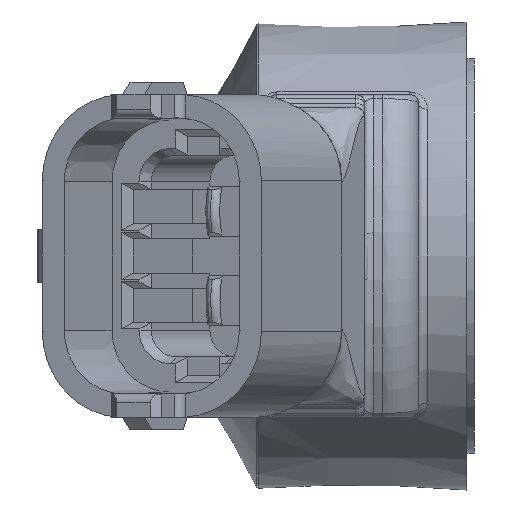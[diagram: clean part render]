
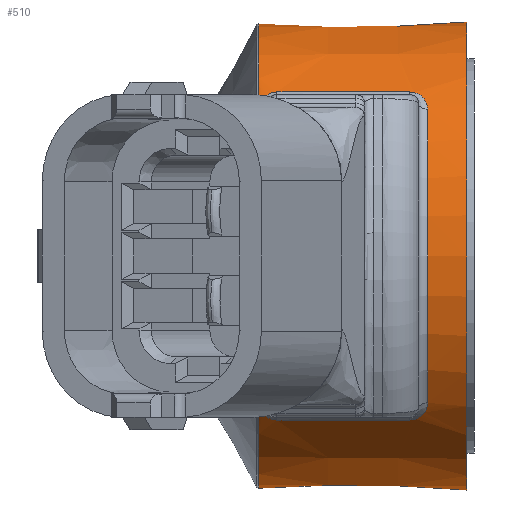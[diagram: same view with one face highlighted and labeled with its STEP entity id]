
A CAD part, left-side view. The second image highlights one B-rep face of the part: STEP entity #510.
In plain terms, the highlighted conical face has half-angle 0.5 degrees and reference radius 13.05 mm.
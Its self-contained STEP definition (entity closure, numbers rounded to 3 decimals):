
#217=CONICAL_SURFACE('',#5031,13.05,0.5);
#230=B_SPLINE_CURVE_WITH_KNOTS('',3,(#6878,#6879,#6880,#6881,#6882,#6883,
#6884,#6885,#6886,#6887),.UNSPECIFIED.,.F.,.F.,(4,3,3,4),(0.,0.135,
0.676,1.),.UNSPECIFIED.);
#231=B_SPLINE_CURVE_WITH_KNOTS('',3,(#6890,#6891,#6892,#6893,#6894,#6895,
#6896,#6897,#6898,#6899),.UNSPECIFIED.,.F.,.F.,(4,2,2,2,4),(0.,0.25,0.5,
0.75,1.),.UNSPECIFIED.);
#232=B_SPLINE_CURVE_WITH_KNOTS('',3,(#6903,#6904,#6905,#6906,#6907,#6908,
#6909,#6910,#6911,#6912),.UNSPECIFIED.,.F.,.F.,(4,2,2,2,4),(0.,0.5,
0.625,0.75,1.),.UNSPECIFIED.);
#233=B_SPLINE_CURVE_WITH_KNOTS('',3,(#6914,#6915,#6916,#6917,#6918,#6919,
#6920,#6921,#6922,#6923),.UNSPECIFIED.,.F.,.F.,(4,3,3,4),(0.,0.068,
0.609,1.),.UNSPECIFIED.);
#234=B_SPLINE_CURVE_WITH_KNOTS('',3,(#6925,#6926,#6927,#6928,#6929,#6930,
#6931,#6932,#6933,#6934),.UNSPECIFIED.,.F.,.F.,(4,2,2,2,4),(0.,0.25,0.5,
0.75,1.),.UNSPECIFIED.);
#235=B_SPLINE_CURVE_WITH_KNOTS('',3,(#6938,#6939,#6940,#6941,#6942,#6943,
#6944,#6945,#6946,#6947,#6948,#6949),.UNSPECIFIED.,.F.,.F.,(4,2,2,2,2,4),
(0.,0.25,0.5,0.625,0.75,
1.),.UNSPECIFIED.);
#301=FACE_BOUND('',#1265,.T.);
#302=FACE_BOUND('',#1266,.T.);
#343=CIRCLE('',#5027,12.949);
#344=CIRCLE('',#5028,13.031);
#345=CIRCLE('',#5029,12.949);
#346=CIRCLE('',#5030,13.05);
#510=ADVANCED_FACE('',(#301,#302,#973),#217,.T.);
#973=FACE_OUTER_BOUND('',#1267,.T.);
#1265=EDGE_LOOP('',(#1625));
#1266=EDGE_LOOP('',(#1626,#1627,#1628,#1629,#1630,#1631,#1632,#1633));
#1267=EDGE_LOOP('',(#1634));
#1625=ORIENTED_EDGE('',*,*,#3468,.T.);
#1626=ORIENTED_EDGE('',*,*,#3469,.T.);
#1627=ORIENTED_EDGE('',*,*,#3470,.T.);
#1628=ORIENTED_EDGE('',*,*,#3471,.T.);
#1629=ORIENTED_EDGE('',*,*,#3472,.T.);
#1630=ORIENTED_EDGE('',*,*,#3473,.T.);
#1631=ORIENTED_EDGE('',*,*,#3474,.T.);
#1632=ORIENTED_EDGE('',*,*,#3475,.T.);
#1633=ORIENTED_EDGE('',*,*,#3476,.T.);
#1634=ORIENTED_EDGE('',*,*,#3477,.F.);
#3031=VERTEX_POINT('',#6877);
#3032=VERTEX_POINT('',#6888);
#3033=VERTEX_POINT('',#6889);
#3034=VERTEX_POINT('',#6900);
#3035=VERTEX_POINT('',#6902);
#3036=VERTEX_POINT('',#6913);
#3037=VERTEX_POINT('',#6924);
#3038=VERTEX_POINT('',#6935);
#3039=VERTEX_POINT('',#6937);
#3040=VERTEX_POINT('',#6951);
#3468=EDGE_CURVE('',#3031,#3031,#343,.T.);
#3469=EDGE_CURVE('',#3032,#3033,#230,.T.);
#3470=EDGE_CURVE('',#3033,#3034,#231,.T.);
#3471=EDGE_CURVE('',#3034,#3035,#344,.T.);
#3472=EDGE_CURVE('',#3035,#3036,#232,.T.);
#3473=EDGE_CURVE('',#3036,#3037,#233,.T.);
#3474=EDGE_CURVE('',#3037,#3038,#234,.T.);
#3475=EDGE_CURVE('',#3038,#3039,#345,.T.);
#3476=EDGE_CURVE('',#3039,#3032,#235,.T.);
#3477=EDGE_CURVE('',#3040,#3040,#346,.T.);
#5027=AXIS2_PLACEMENT_3D('',#6876,#5521,#5522);
#5028=AXIS2_PLACEMENT_3D('',#6901,#5523,#5524);
#5029=AXIS2_PLACEMENT_3D('',#6936,#5525,#5526);
#5030=AXIS2_PLACEMENT_3D('',#6950,#5527,#5528);
#5031=AXIS2_PLACEMENT_3D('',#6952,#5529,#5530);
#5521=DIRECTION('',(0.,-1.,0.));
#5522=DIRECTION('',(-1.,0.,0.));
#5523=DIRECTION('',(0.,-1.,0.));
#5524=DIRECTION('',(1.,0.,0.));
#5525=DIRECTION('',(0.,1.,0.));
#5526=DIRECTION('',(0.,0.,1.));
#5527=DIRECTION('',(0.,-1.,0.));
#5528=DIRECTION('',(1.,0.,0.));
#5529=DIRECTION('',(0.,-1.,0.));
#5530=DIRECTION('',(1.,0.,0.));
#6876=CARTESIAN_POINT('',(-154.308,180.767,0.));
#6877=CARTESIAN_POINT('',(-167.256,180.767,0.));
#6878=CARTESIAN_POINT('',(-163.485,179.75,9.147));
#6879=CARTESIAN_POINT('',(-163.49,179.416,9.147));
#6880=CARTESIAN_POINT('',(-163.494,179.083,9.147));
#6881=CARTESIAN_POINT('',(-163.498,178.75,9.147));
#6882=CARTESIAN_POINT('',(-163.514,177.417,9.148));
#6883=CARTESIAN_POINT('',(-163.53,176.083,9.148));
#6884=CARTESIAN_POINT('',(-163.546,174.75,9.148));
#6885=CARTESIAN_POINT('',(-163.556,173.95,9.148));
#6886=CARTESIAN_POINT('',(-163.565,173.15,9.149));
#6887=CARTESIAN_POINT('',(-163.575,172.35,9.149));
#6888=CARTESIAN_POINT('',(-163.485,179.75,9.147));
#6889=CARTESIAN_POINT('',(-163.575,172.35,9.149));
#6890=CARTESIAN_POINT('',(-163.575,172.35,9.149));
#6891=CARTESIAN_POINT('',(-163.577,172.197,9.149));
#6892=CARTESIAN_POINT('',(-163.612,172.05,9.115));
#6893=CARTESIAN_POINT('',(-163.728,171.794,8.998));
#6894=CARTESIAN_POINT('',(-163.806,171.688,8.918));
#6895=CARTESIAN_POINT('',(-163.975,171.52,8.737));
#6896=CARTESIAN_POINT('',(-164.066,171.457,8.636));
#6897=CARTESIAN_POINT('',(-164.256,171.371,8.417));
#6898=CARTESIAN_POINT('',(-164.351,171.35,8.304));
#6899=CARTESIAN_POINT('',(-164.447,171.35,8.186));
#6900=CARTESIAN_POINT('',(-164.447,171.35,8.186));
#6901=CARTESIAN_POINT('',(-154.308,171.35,0.));
#6902=CARTESIAN_POINT('',(-164.447,171.35,-8.186));
#6903=CARTESIAN_POINT('',(-164.447,171.35,-8.186));
#6904=CARTESIAN_POINT('',(-164.256,171.35,-8.422));
#6905=CARTESIAN_POINT('',(-164.059,171.435,-8.647));
#6906=CARTESIAN_POINT('',(-163.846,171.648,-8.875));
#6907=CARTESIAN_POINT('',(-163.806,171.695,-8.917));
#6908=CARTESIAN_POINT('',(-163.732,171.801,-8.993));
#6909=CARTESIAN_POINT('',(-163.698,171.86,-9.028));
#6910=CARTESIAN_POINT('',(-163.612,172.05,-9.114));
#6911=CARTESIAN_POINT('',(-163.577,172.197,-9.149));
#6912=CARTESIAN_POINT('',(-163.575,172.35,-9.149));
#6913=CARTESIAN_POINT('',(-163.575,172.35,-9.149));
#6914=CARTESIAN_POINT('',(-163.575,172.35,-9.149));
#6915=CARTESIAN_POINT('',(-163.573,172.518,-9.149));
#6916=CARTESIAN_POINT('',(-163.571,172.686,-9.149));
#6917=CARTESIAN_POINT('',(-163.569,172.854,-9.149));
#6918=CARTESIAN_POINT('',(-163.553,174.187,-9.148));
#6919=CARTESIAN_POINT('',(-163.537,175.52,-9.148));
#6920=CARTESIAN_POINT('',(-163.52,176.854,-9.148));
#6921=CARTESIAN_POINT('',(-163.509,177.819,-9.147));
#6922=CARTESIAN_POINT('',(-163.497,178.784,-9.147));
#6923=CARTESIAN_POINT('',(-163.485,179.75,-9.147));
#6924=CARTESIAN_POINT('',(-163.485,179.75,-9.147));
#6925=CARTESIAN_POINT('',(-163.485,179.75,-9.147));
#6926=CARTESIAN_POINT('',(-163.484,179.902,-9.147));
#6927=CARTESIAN_POINT('',(-163.516,180.049,-9.113));
#6928=CARTESIAN_POINT('',(-163.628,180.306,-8.996));
#6929=CARTESIAN_POINT('',(-163.704,180.413,-8.915));
#6930=CARTESIAN_POINT('',(-163.871,180.581,-8.733));
#6931=CARTESIAN_POINT('',(-163.962,180.643,-8.632));
#6932=CARTESIAN_POINT('',(-164.152,180.728,-8.414));
#6933=CARTESIAN_POINT('',(-164.247,180.75,-8.301));
#6934=CARTESIAN_POINT('',(-164.342,180.75,-8.184));
#6935=CARTESIAN_POINT('',(-164.342,180.75,-8.184));
#6936=CARTESIAN_POINT('',(-154.308,180.75,0.));
#6937=CARTESIAN_POINT('',(-164.342,180.75,8.184));
#6938=CARTESIAN_POINT('',(-164.342,180.75,8.184));
#6939=CARTESIAN_POINT('',(-164.247,180.75,8.301));
#6940=CARTESIAN_POINT('',(-164.151,180.728,8.415));
#6941=CARTESIAN_POINT('',(-163.961,180.643,8.633));
#6942=CARTESIAN_POINT('',(-163.87,180.58,8.734));
#6943=CARTESIAN_POINT('',(-163.744,180.453,8.872));
#6944=CARTESIAN_POINT('',(-163.704,180.405,8.914));
#6945=CARTESIAN_POINT('',(-163.632,180.299,8.991));
#6946=CARTESIAN_POINT('',(-163.599,180.24,9.026));
#6947=CARTESIAN_POINT('',(-163.516,180.049,9.113));
#6948=CARTESIAN_POINT('',(-163.484,179.902,9.147));
#6949=CARTESIAN_POINT('',(-163.485,179.75,9.147));
#6950=CARTESIAN_POINT('',(-154.308,169.154,0.));
#6951=CARTESIAN_POINT('',(-141.258,169.154,0.));
#6952=CARTESIAN_POINT('',(-154.308,169.154,0.));
